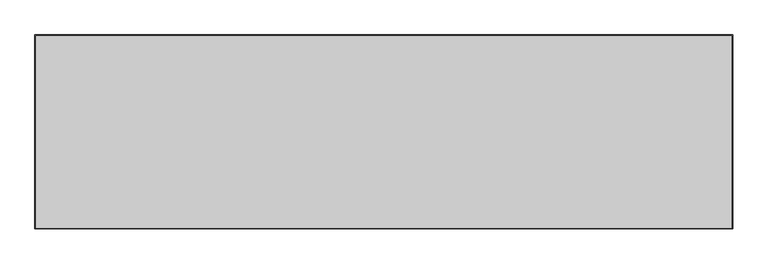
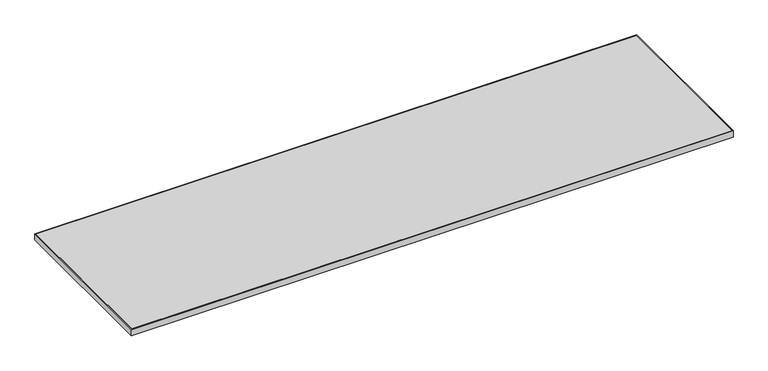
"""IFC4 building model written with IfcOpenShell, lengths in millimetres: furniture geometry, Steelcase - Universal Storage - Square Edge Top - Flush Front - Laminate : Common Top - 30D x 108W."""

from ifc_helpers import new_model, si_unit, frame, origin, place, context, project, spatial, polyline, outline, extrude, source, transform, mapped, element, save


def furniture_1e4143b6(model_context):
    return source(origin(), model_context, "Body", "SweptSolid", [
        extrude(outline(polyline([(2740.1520001, -3.0479999), (2740.1520001, -758.9520001), (3.0479999, -758.9520001), (3.0479999, -3.0479999), (2740.1520001, -3.0479999)])), frame((0.0, 0.0, 680.72), z_axis=(0.0, 0.0, 1.0), x_axis=(1.0, 0.0, 0.0)), (0.0, 0.0, 1.0), 30.48),
        extrude(outline(polyline([(2743.2, 0.0), (2743.2, -762.0), (0.0, -762.0), (0.0, 0.0), (2743.2, 0.0)]), holes=[polyline([(2740.1520001, -3.0479999), (3.0479999, -3.0479999), (3.0479999, -758.9520001), (2740.1520001, -758.9520001), (2740.1520001, -3.0479999)])]), frame((0.0, 0.0, 680.72), z_axis=(0.0, 0.0, 1.0), x_axis=(1.0, 0.0, 0.0)), (0.0, 0.0, 1.0), 30.48),
    ])


if __name__ == "__main__":
    model = new_model("IFC4")
    model_context = context("Model", 3, world=origin())
    ifc_project = project(units=[si_unit("LENGTHUNIT", "METRE", prefix="MILLI")], contexts=[model_context])
    site = spatial("IfcSite", under=ifc_project)
    building = spatial("IfcBuilding", under=site)
    placement = place(None, origin())
    furniture_shape = furniture_1e4143b6(model_context)
    element("IfcFurniture", 1, ObjectType="Steelcase - Universal Storage - Square Edge Top - Flush Front - Laminate : Common Top - 30D x 108W", at=placement, inside=building, context=model_context, shape_type="MappedRepresentation", body=[
        mapped(furniture_shape, transform((0.0, 0.0, 0.0), x_axis=(1.0, 0.0, 0.0), y_axis=(0.0, 1.0, 0.0), z_axis=(0.0, 0.0, 1.0))),
    ])
    save(model, "model.ifc")
